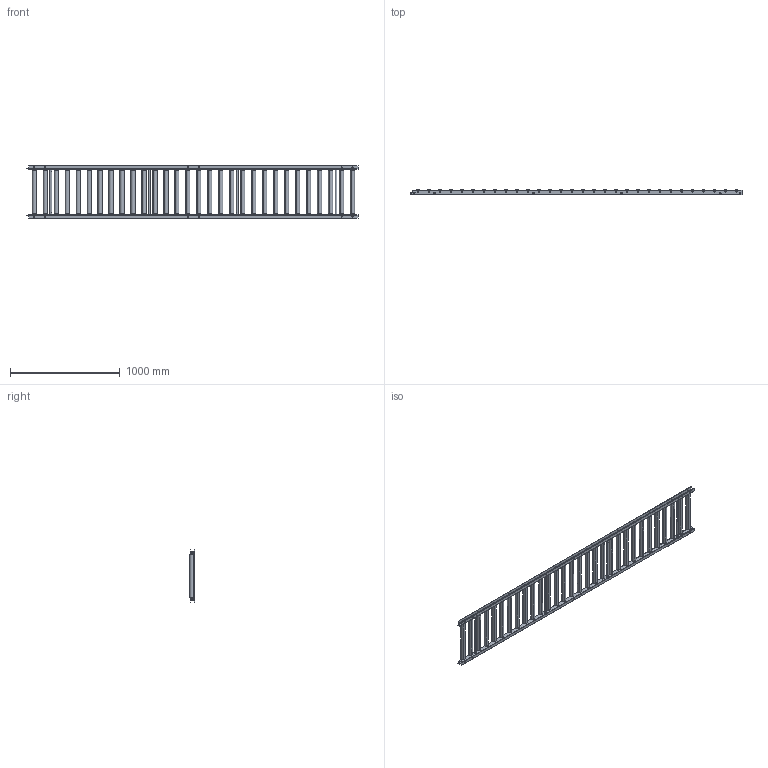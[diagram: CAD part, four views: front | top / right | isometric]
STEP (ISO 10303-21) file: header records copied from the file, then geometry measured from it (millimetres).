
FILE_DESCRIPTION (( 'STEP AP203' ), '1' );
FILE_NAME ('R-3812PL.step', '2024-02-26T06:37:00', ( '' ), ( '' ), 'SwSTEP 2.0', 'SolidWorks 2023', '' );
FILE_SCHEMA (( 'CONFIG_CONTROL_DESIGN' ));
Length unit declared in the file: millimetre
Products named in the file (1): R-3812PL
Bounding box: 3025 x 47.05 x 475 mm (x, y, z)
Volume: 14362372 mm3; surface area: 4195182.9 mm2
Topology: 76 solids, 76 shells, 1280 faces, 2964 edges, 1896 vertices
Faces by surface type: cylinder 622, plane 506, torus 120, cone 32
Entity records: 37347 total; most frequent: DIRECTION 7194, CARTESIAN_POINT 6125, ORIENTED_EDGE 5896, AXIS2_PLACEMENT_3D 2965, EDGE_CURVE 2948, VERTEX_POINT 1896, CIRCLE 1684, EDGE_LOOP 1660
